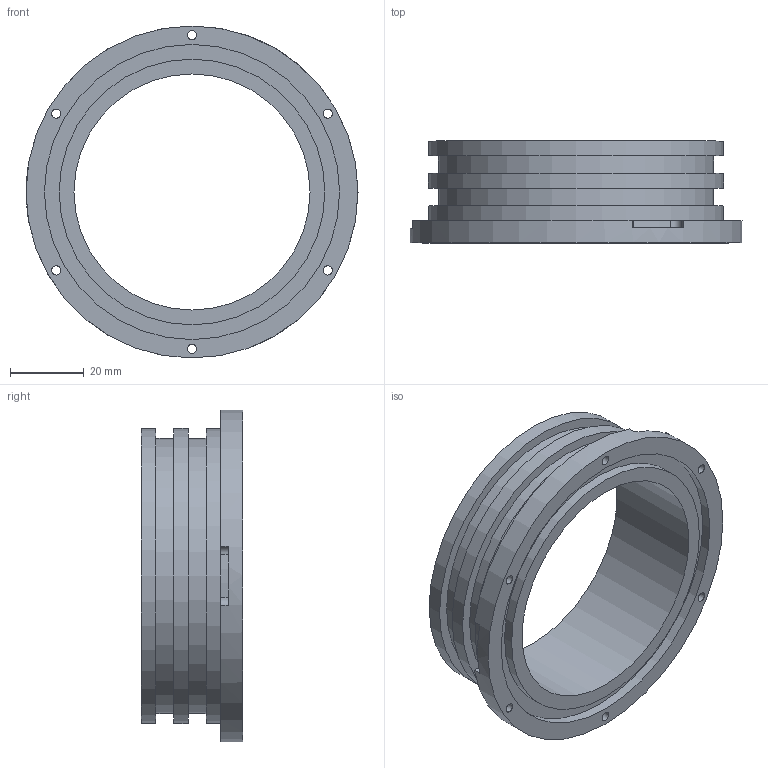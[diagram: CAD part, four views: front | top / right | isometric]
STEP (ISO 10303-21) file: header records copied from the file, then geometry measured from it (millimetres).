
FILE_DESCRIPTION (( 'STEP AP203' ), '1' );
FILE_NAME ('90通用法兰.STEP', '2023-12-11T09:53:25', ( '' ), ( '' ), 'SwSTEP 2.0', 'SolidWorks 2021', '' );
FILE_SCHEMA (( 'CONFIG_CONTROL_DESIGN' ));
Length unit declared in the file: millimetre
Products named in the file (1): 90籵蚚楊擘
Bounding box: 90 x 27.6 x 90 mm (x, y, z)
Volume: 48397.6 mm3; surface area: 23252.4 mm2
Topology: 1 solids, 1 shells, 54 faces, 136 edges, 91 vertices
Faces by surface type: cylinder 30, plane 18, cone 6
Full cylindrical faces by diameter (mm): 2.5 x12, 64 x1, 72 x1, 74.6 x2, 80 x4, 90 x1
Entity records: 1497 total; most frequent: DIRECTION 270, CARTESIAN_POINT 227, ORIENTED_EDGE 190, AXIS2_PLACEMENT_3D 120, EDGE_LOOP 102, EDGE_CURVE 95, VERTEX_POINT 77, FACE_OUTER_BOUND 75
